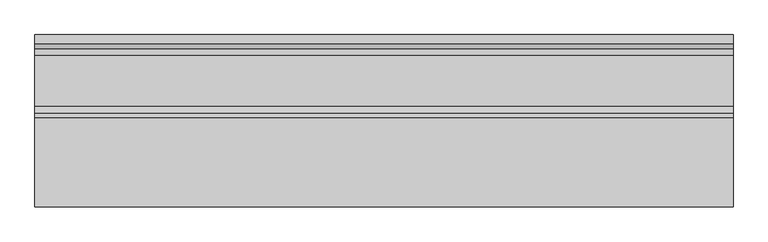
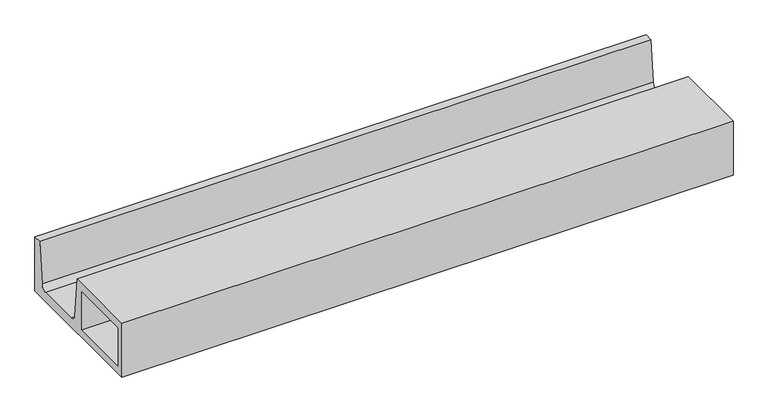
"""IFC4 building model written with IfcOpenShell, lengths in millimetres: proxy geometry, Muestra 2.01m RS901 : Muestra 2.01m RS901."""

from ifc_helpers import new_model, si_unit, point, frame, frame_2d, origin, place, context, project, spatial, polyline, circle_curve, trimmed, segment, composite_curve, outline, extrude, source, transform, mapped, element, save


def generic_models_b9b95333(model_context):
    return source(origin(), model_context, "Body", "SweptSolid", [
        extrude(outline(composite_curve([segment(polyline([(-8670.2962911, -35.8460892), (-8414.4276661, -35.8460892), (-8400.8916625, -175.4512038)]), True, "CONTINUOUS"), segment(trimmed(circle_curve(frame_2d((-8381.2493319, -173.000794)), 19.7945866), [point((-8400.8916625, -175.4512038))], [point((-8380.8579176, -192.7915104))], True, "CARTESIAN"), True, "CONTINUOUS"), segment(polyline([(-8380.8579176, -192.7915104), (-8234.7346646, -192.7915104)]), True, "CONTINUOUS"), segment(trimmed(circle_curve(frame_2d((-8234.3432504, -173.000794)), 19.7945866), [point((-8234.7346646, -192.7915104))], [point((-8214.7009198, -175.4512038))], True, "CARTESIAN"), True, "CONTINUOUS"), segment(polyline([(-8214.7009198, -175.4512038), (-8201.1649161, -35.8460892), (-8174.2962911, -35.8460892), (-8174.2962911, -222.8460892), (-8670.2962911, -222.8460892), (-8670.2962911, -35.8460892)]), True, "CONTINUOUS")], self_intersect=False), holes=[polyline([(-8441.2962911, -65.8460892), (-8645.2962911, -65.8460892), (-8645.2962911, -197.8460892), (-8441.2962911, -197.8460892), (-8441.2962911, -65.8460892)])]), frame((143942.5520708, 0.0, 0.0), z_axis=(1.0, 0.0, 0.0), x_axis=(0.0, 1.0, 0.0)), (0.0, 0.0, 1.0), 2010.0),
    ])


if __name__ == "__main__":
    model = new_model("IFC4")
    model_context = context("Model", 3, world=origin())
    ifc_project = project(units=[si_unit("LENGTHUNIT", "METRE", prefix="MILLI")], contexts=[model_context])
    site = spatial("IfcSite", under=ifc_project)
    building = spatial("IfcBuilding", under=site)
    placement = place(None, origin())
    generic_models_shape = generic_models_b9b95333(model_context)
    element("IfcBuildingElementProxy", 1, Name="Muestra 2.01m RS901 : Muestra 2.01m RS901", ObjectType="Muestra 2.01m RS901 : Muestra 2.01m RS901", at=placement, inside=building, context=model_context, shape_type="MappedRepresentation", body=[
        mapped(generic_models_shape, transform((0.0, 0.0, 0.0), x_axis=(1.0, 0.0, 0.0), y_axis=(0.0, 1.0, 0.0), z_axis=(0.0, 0.0, 1.0))),
    ])
    save(model, "model.ifc")
